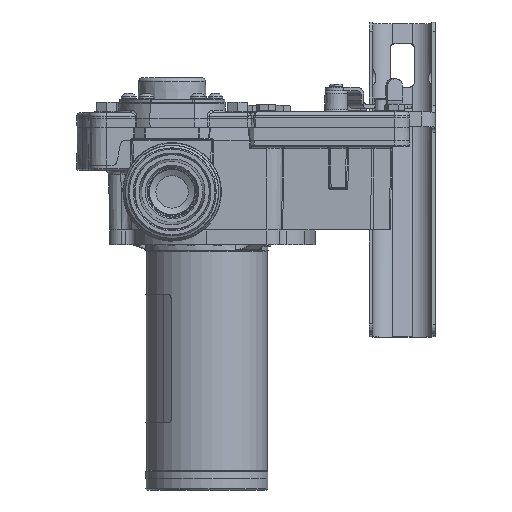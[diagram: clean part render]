
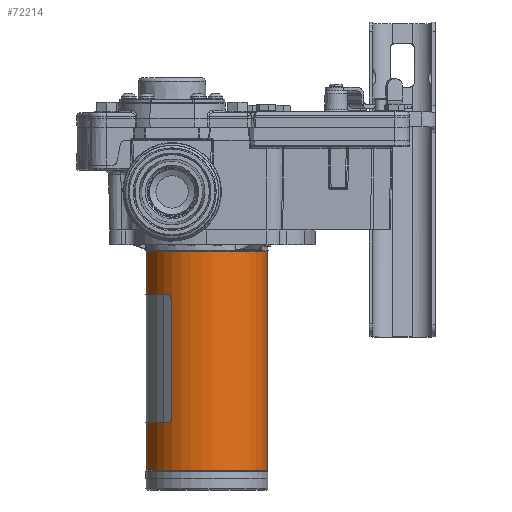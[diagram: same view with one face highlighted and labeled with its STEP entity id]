
A CAD part, front view. The second image highlights one B-rep face of the part: STEP entity #72214.
In plain terms, the highlighted cylindrical face has radius 38.976 mm (diameter 77.953 mm), a full revolution.
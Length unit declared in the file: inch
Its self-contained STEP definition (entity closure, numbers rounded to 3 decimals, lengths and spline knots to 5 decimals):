
#175=ELLIPSE('',#77032,4.48658,1.5345);
#176=ELLIPSE('',#77033,4.48658,1.5345);
#1681=FACE_BOUND('',#11929,.T.);
#7826=FACE_OUTER_BOUND('',#11928,.T.);
#11928=EDGE_LOOP('',(#63754,#63755,#63756,#63757));
#11929=EDGE_LOOP('',(#63758,#63759,#63760,#63761,#63762,#63763,#63764));
#13706=CIRCLE('',#77028,1.5345);
#13707=CIRCLE('',#77030,1.5345);
#13708=CIRCLE('',#77031,1.5345);
#13709=CIRCLE('',#77034,1.5345);
#13710=CIRCLE('',#77035,1.5345);
#21603=LINE('',#154702,#27054);
#21604=LINE('',#154714,#27055);
#21605=LINE('',#154717,#27056);
#27054=VECTOR('',#92001,1.5345);
#27055=VECTOR('',#92012,0.3937);
#27056=VECTOR('',#92015,0.3937);
#33532=VERTEX_POINT('',#154697);
#33533=VERTEX_POINT('',#154701);
#33534=VERTEX_POINT('',#154704);
#33535=VERTEX_POINT('',#154705);
#33536=VERTEX_POINT('',#154707);
#33537=VERTEX_POINT('',#154709);
#33538=VERTEX_POINT('',#154711);
#33539=VERTEX_POINT('',#154713);
#33540=VERTEX_POINT('',#154715);
#43615=EDGE_CURVE('',#33532,#33532,#13706,.T.);
#43617=EDGE_CURVE('',#33532,#33533,#21603,.T.);
#43618=EDGE_CURVE('',#33533,#33533,#13707,.T.);
#43619=EDGE_CURVE('',#33534,#33535,#13708,.T.);
#43620=EDGE_CURVE('',#33535,#33536,#175,.T.);
#43621=EDGE_CURVE('',#33536,#33537,#176,.T.);
#43622=EDGE_CURVE('',#33537,#33538,#13709,.T.);
#43623=EDGE_CURVE('',#33538,#33539,#21604,.T.);
#43624=EDGE_CURVE('',#33539,#33540,#13710,.T.);
#43625=EDGE_CURVE('',#33540,#33534,#21605,.T.);
#63754=ORIENTED_EDGE('',*,*,#43615,.F.);
#63755=ORIENTED_EDGE('',*,*,#43617,.T.);
#63756=ORIENTED_EDGE('',*,*,#43618,.F.);
#63757=ORIENTED_EDGE('',*,*,#43617,.F.);
#63758=ORIENTED_EDGE('',*,*,#43619,.T.);
#63759=ORIENTED_EDGE('',*,*,#43620,.T.);
#63760=ORIENTED_EDGE('',*,*,#43621,.T.);
#63761=ORIENTED_EDGE('',*,*,#43622,.T.);
#63762=ORIENTED_EDGE('',*,*,#43623,.T.);
#63763=ORIENTED_EDGE('',*,*,#43624,.T.);
#63764=ORIENTED_EDGE('',*,*,#43625,.T.);
#64521=CYLINDRICAL_SURFACE('',#77029,1.5345);
#72214=ADVANCED_FACE('',(#7826,#1681),#64521,.T.);
#77028=AXIS2_PLACEMENT_3D('',#154698,#91996,#91997);
#77029=AXIS2_PLACEMENT_3D('',#154700,#91999,#92000);
#77030=AXIS2_PLACEMENT_3D('',#154703,#92002,#92003);
#77031=AXIS2_PLACEMENT_3D('',#154706,#92004,#92005);
#77032=AXIS2_PLACEMENT_3D('',#154708,#92006,#92007);
#77033=AXIS2_PLACEMENT_3D('',#154710,#92008,#92009);
#77034=AXIS2_PLACEMENT_3D('',#154712,#92010,#92011);
#77035=AXIS2_PLACEMENT_3D('',#154716,#92013,#92014);
#91996=DIRECTION('center_axis',(0.,0.,
1.));
#91997=DIRECTION('ref_axis',(-0.707,-0.707,0.));
#91999=DIRECTION('center_axis',(0.,0.,
1.));
#92000=DIRECTION('ref_axis',(-0.707,-0.707,0.));
#92001=DIRECTION('',(0.,0.,-1.));
#92002=DIRECTION('center_axis',(0.,0.,
-1.));
#92003=DIRECTION('ref_axis',(-0.707,-0.707,0.));
#92004=DIRECTION('center_axis',(0.,0.,
-1.));
#92005=DIRECTION('ref_axis',(-0.707,-0.707,0.));
#92006=DIRECTION('center_axis',(0.664,0.664,0.342));
#92007=DIRECTION('ref_axis',(-0.242,-0.242,0.94));
#92008=DIRECTION('center_axis',(-0.664,-0.664,0.342));
#92009=DIRECTION('ref_axis',(-0.242,-0.242,-0.94));
#92010=DIRECTION('center_axis',(0.,0.,
-1.));
#92011=DIRECTION('ref_axis',(-0.707,-0.707,0.));
#92012=DIRECTION('',(0.,0.,-1.));
#92013=DIRECTION('center_axis',(0.,0.,
-1.));
#92014=DIRECTION('ref_axis',(-0.707,-0.707,0.));
#92015=DIRECTION('',(0.,0.,1.));
#154697=CARTESIAN_POINT('',(1.08506,1.08506,-3.165));
#154698=CARTESIAN_POINT('Origin',(0.,0.,
-3.165));
#154700=CARTESIAN_POINT('Origin',(0.,0.,
-8.753));
#154701=CARTESIAN_POINT('',(1.08506,1.08506,-8.723));
#154702=CARTESIAN_POINT('',(1.08506,1.08506,-8.753));
#154703=CARTESIAN_POINT('Origin',(0.,0.,
-8.723));
#154704=CARTESIAN_POINT('',(-1.0744,1.09561,-3.412));
#154705=CARTESIAN_POINT('',(-1.03854,1.12965,-3.412));
#154706=CARTESIAN_POINT('Origin',(0.,0.,
-3.412));
#154707=CARTESIAN_POINT('',(-1.08506,1.08506,-3.235));
#154708=CARTESIAN_POINT('Origin',(0.,0.,
-3.235));
#154709=CARTESIAN_POINT('',(-1.12965,1.03854,-3.412));
#154710=CARTESIAN_POINT('Origin',(0.,0.,
-3.235));
#154711=CARTESIAN_POINT('',(-1.09561,1.0744,-3.412));
#154712=CARTESIAN_POINT('Origin',(0.,0.,
-3.412));
#154713=CARTESIAN_POINT('',(-1.09561,1.0744,-8.653));
#154714=CARTESIAN_POINT('',(-1.09561,1.0744,-8.753));
#154715=CARTESIAN_POINT('',(-1.0744,1.09561,-8.653));
#154716=CARTESIAN_POINT('Origin',(0.,0.,
-8.653));
#154717=CARTESIAN_POINT('',(-1.0744,1.09561,-8.753));
